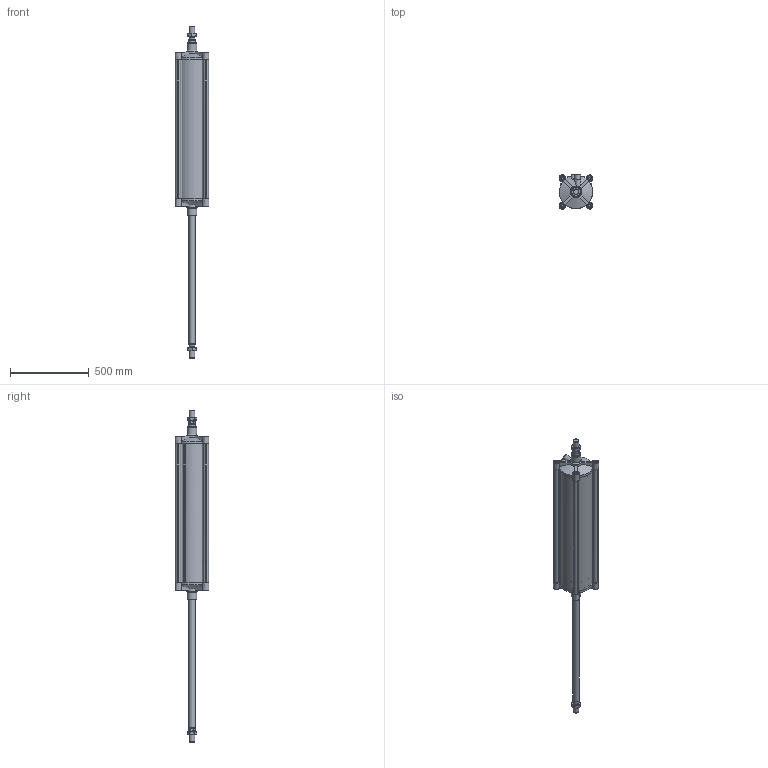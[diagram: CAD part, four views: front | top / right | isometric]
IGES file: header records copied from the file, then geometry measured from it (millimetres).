
Global section: file name: 139#_200_0800_02; native system: Autodesk Inventor 2014; preprocessor: unknown; author: F. Piloni; organization: Pneumax S.p.A.; date: 20151120.143311; units: millimetre
Bounding box: 216 x 216 x 2114 mm (x, y, z)
Volume: 12805686.2 mm3; surface area: 2453875.5 mm2
Topology: 6 solids, 6 shells, 324 faces, 844 edges, 567 vertices
Faces by surface type: bspline 324
